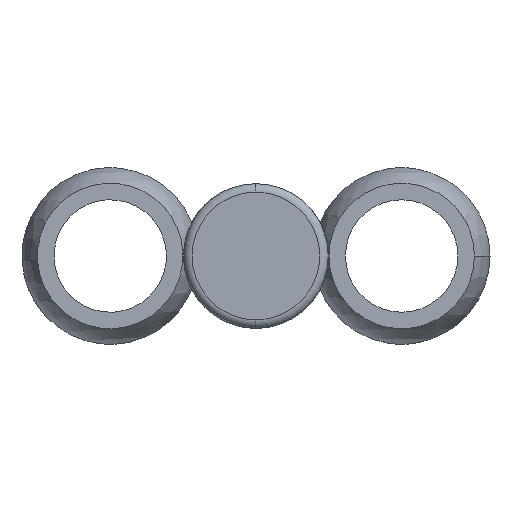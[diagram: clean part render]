
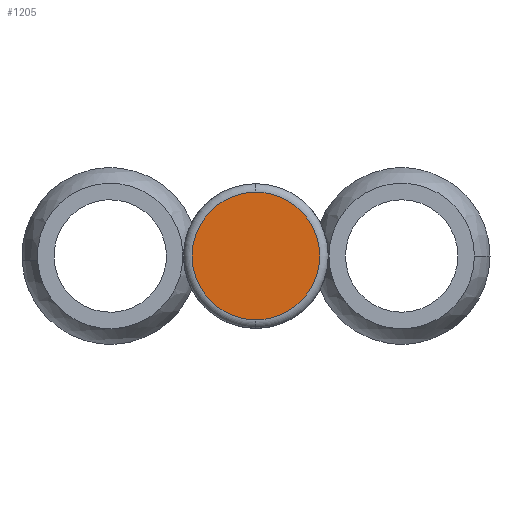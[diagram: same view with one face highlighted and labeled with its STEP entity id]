
A CAD part, front view. The second image highlights one B-rep face of the part: STEP entity #1205.
In plain terms, the highlighted planar face has unit normal (0, -1, 0).
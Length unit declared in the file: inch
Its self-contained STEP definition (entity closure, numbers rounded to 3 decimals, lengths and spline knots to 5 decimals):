
#42 = AXIS2_PLACEMENT_3D ( 'NONE', #1551, #547, #913 ) ;
#96 = CIRCLE ( 'NONE', #1200, 0.22591 ) ;
#210 = FACE_OUTER_BOUND ( 'NONE', #293, .T. ) ;
#293 = EDGE_LOOP ( 'NONE', ( #763, #1014 ) ) ;
#366 = DIRECTION ( 'NONE',  ( 0., 0., 1. ) ) ;
#409 = EDGE_CURVE ( 'NONE', #1505, #1151, #96, .T. ) ;
#547 = DIRECTION ( 'NONE',  ( 0., 1., 0. ) ) ;
#762 = DIRECTION ( 'NONE',  ( 0., -1., 0. ) ) ;
#763 = ORIENTED_EDGE ( 'NONE', *, *, #409, .T. ) ;
#782 = CARTESIAN_POINT ( 'NONE',  ( 0., -0.945, -0.22591 ) ) ;
#878 = CARTESIAN_POINT ( 'NONE',  ( 0., -0.945, 0. ) ) ;
#913 = DIRECTION ( 'NONE',  ( 0., 0., 1. ) ) ;
#936 = CARTESIAN_POINT ( 'NONE',  ( 0., -0.945, 0. ) ) ;
#1014 = ORIENTED_EDGE ( 'NONE', *, *, #1295, .T. ) ;
#1039 = PLANE ( 'NONE',  #42 ) ;
#1045 = AXIS2_PLACEMENT_3D ( 'NONE', #936, #1570, #1433 ) ;
#1151 = VERTEX_POINT ( 'NONE', #782 ) ;
#1200 = AXIS2_PLACEMENT_3D ( 'NONE', #878, #762, #366 ) ;
#1205 = ADVANCED_FACE ( 'NONE', ( #210 ), #1039, .F. ) ;
#1210 = CIRCLE ( 'NONE', #1045, 0.22591 ) ;
#1227 = CARTESIAN_POINT ( 'NONE',  ( 0., -0.945, 0.22591 ) ) ;
#1295 = EDGE_CURVE ( 'NONE', #1151, #1505, #1210, .T. ) ;
#1433 = DIRECTION ( 'NONE',  ( 0., 0., 1. ) ) ;
#1505 = VERTEX_POINT ( 'NONE', #1227 ) ;
#1551 = CARTESIAN_POINT ( 'NONE',  ( 0., -0.945, 0. ) ) ;
#1570 = DIRECTION ( 'NONE',  ( 0., -1., 0. ) ) ;
